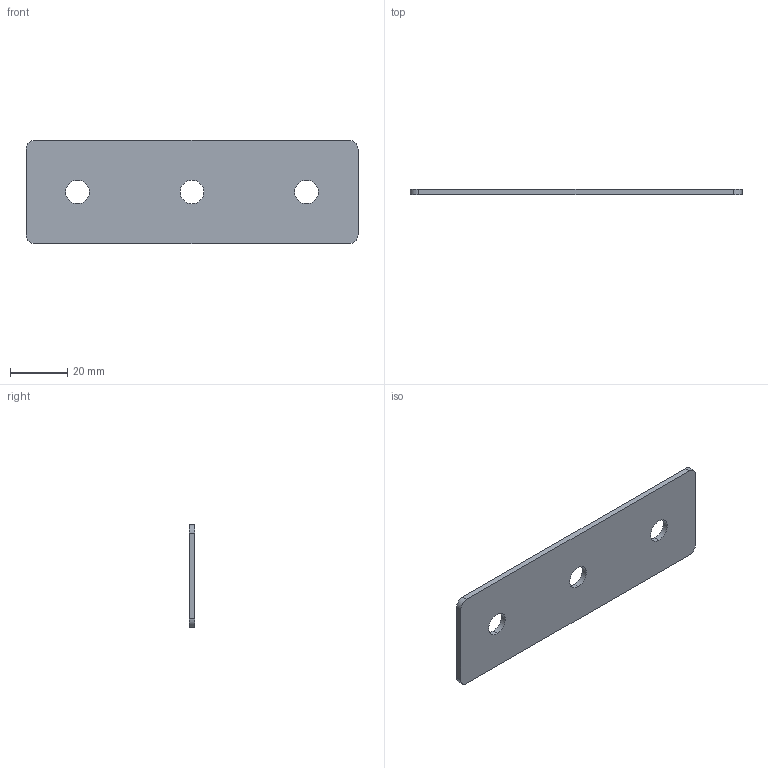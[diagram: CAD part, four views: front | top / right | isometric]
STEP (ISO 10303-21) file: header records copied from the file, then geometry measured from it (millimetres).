
FILE_DESCRIPTION (( 'STEP AP203' ), '1' );
FILE_NAME ('ﾏ-3-40.STEP', '2016-07-23T14:39:57', ( '' ), ( '' ), 'SwSTEP 2.0', 'SolidWorks 2014', '' );
FILE_SCHEMA (( 'CONFIG_CONTROL_DESIGN' ));
Length unit declared in the file: millimetre
Products named in the file (1): ﾏ-3-40
Bounding box: 116 x 2 x 36 mm (x, y, z)
Volume: 8019.9 mm3; surface area: 8772.2 mm2
Topology: 1 solids, 1 shells, 16 faces, 42 edges, 28 vertices
Faces by surface type: cylinder 10, plane 6
Entity records: 595 total; most frequent: DIRECTION 96, CARTESIAN_POINT 87, ORIENTED_EDGE 84, EDGE_CURVE 42, AXIS2_PLACEMENT_3D 37, VERTEX_POINT 28, EDGE_LOOP 22, VECTOR 22
